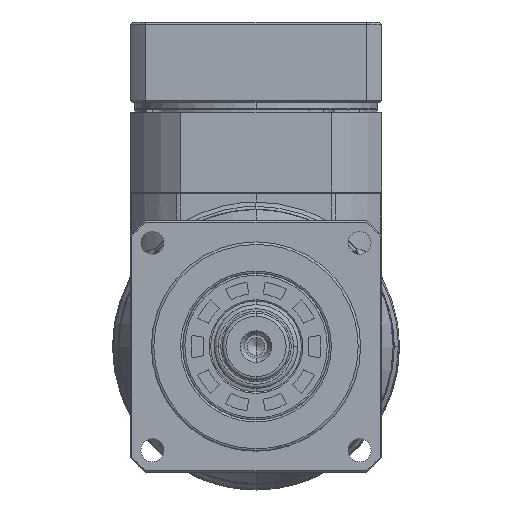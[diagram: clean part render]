
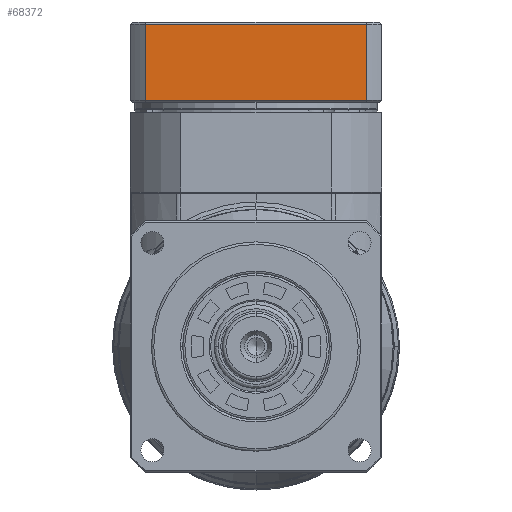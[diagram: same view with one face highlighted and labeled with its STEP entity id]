
A CAD part, left-side view. The second image highlights one B-rep face of the part: STEP entity #68372.
In plain terms, the highlighted planar face has unit normal (-1, 0, 0).
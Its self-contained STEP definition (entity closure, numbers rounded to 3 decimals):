
#832 = DIRECTION ( 'NONE',  ( -1., 0., 0. ) ) ;
#4127 = VERTEX_POINT ( 'NONE', #28847 ) ;
#6908 = LINE ( 'NONE', #43674, #52404 ) ;
#8459 = EDGE_CURVE ( 'NONE', #4127, #63671, #51156, .T. ) ;
#9983 = VECTOR ( 'NONE', #58380, 1000. ) ;
#17219 = ORIENTED_EDGE ( 'NONE', *, *, #68594, .T. ) ;
#17993 = CARTESIAN_POINT ( 'NONE',  ( -66.465, -26.92, 111.631 ) ) ;
#24822 = CARTESIAN_POINT ( 'NONE',  ( -66.465, -53.377, 111.631 ) ) ;
#25066 = VECTOR ( 'NONE', #73293, 1000. ) ;
#25144 = EDGE_CURVE ( 'NONE', #78632, #4127, #6908, .T. ) ;
#25604 = ORIENTED_EDGE ( 'NONE', *, *, #8459, .T. ) ;
#28097 = ORIENTED_EDGE ( 'NONE', *, *, #25144, .T. ) ;
#28847 = CARTESIAN_POINT ( 'NONE',  ( -66.465, -53.377, 129.831 ) ) ;
#37734 = DIRECTION ( 'NONE',  ( 0., 0., 1. ) ) ;
#38383 = CARTESIAN_POINT ( 'NONE',  ( -66.465, -26.92, 129.831 ) ) ;
#41430 = EDGE_LOOP ( 'NONE', ( #17219, #28097, #25604, #68102 ) ) ;
#42502 = CARTESIAN_POINT ( 'NONE',  ( -66.465, -0.462, 129.831 ) ) ;
#43674 = CARTESIAN_POINT ( 'NONE',  ( -66.465, -53.377, 54.331 ) ) ;
#44757 = CARTESIAN_POINT ( 'NONE',  ( -66.465, -0.462, 54.331 ) ) ;
#48784 = CARTESIAN_POINT ( 'NONE',  ( -66.465, -0.462, 111.631 ) ) ;
#48822 = LINE ( 'NONE', #17993, #25066 ) ;
#50407 = DIRECTION ( 'NONE',  ( 0., 0., -1. ) ) ;
#51156 = LINE ( 'NONE', #38383, #9983 ) ;
#51185 = LINE ( 'NONE', #44757, #72083 ) ;
#52404 = VECTOR ( 'NONE', #37734, 1000. ) ;
#55688 = DIRECTION ( 'NONE',  ( 0., 0., 1. ) ) ;
#58380 = DIRECTION ( 'NONE',  ( 0., 1., 0. ) ) ;
#60169 = FACE_OUTER_BOUND ( 'NONE', #41430, .T. ) ;
#60571 = CARTESIAN_POINT ( 'NONE',  ( -66.465, -0.462, 54.331 ) ) ;
#61879 = VERTEX_POINT ( 'NONE', #48784 ) ;
#63671 = VERTEX_POINT ( 'NONE', #42502 ) ;
#67253 = AXIS2_PLACEMENT_3D ( 'NONE', #60571, #832, #55688 ) ;
#68102 = ORIENTED_EDGE ( 'NONE', *, *, #75464, .T. ) ;
#68150 = PLANE ( 'NONE',  #67253 ) ;
#68372 = ADVANCED_FACE ( 'NONE', ( #60169 ), #68150, .T. ) ;
#68594 = EDGE_CURVE ( 'NONE', #61879, #78632, #48822, .T. ) ;
#72083 = VECTOR ( 'NONE', #50407, 1000. ) ;
#73293 = DIRECTION ( 'NONE',  ( 0., -1., 0. ) ) ;
#75464 = EDGE_CURVE ( 'NONE', #63671, #61879, #51185, .T. ) ;
#78632 = VERTEX_POINT ( 'NONE', #24822 ) ;
